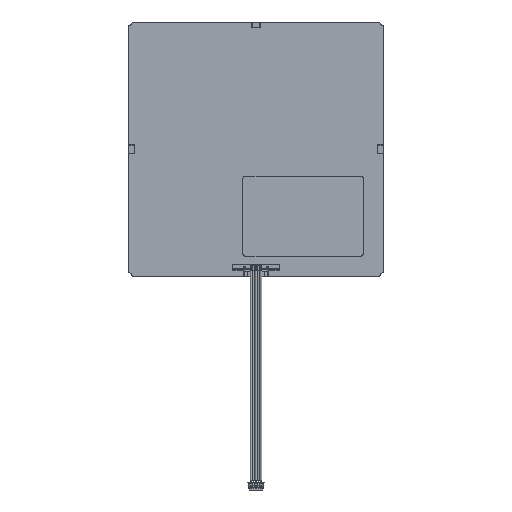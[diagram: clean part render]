
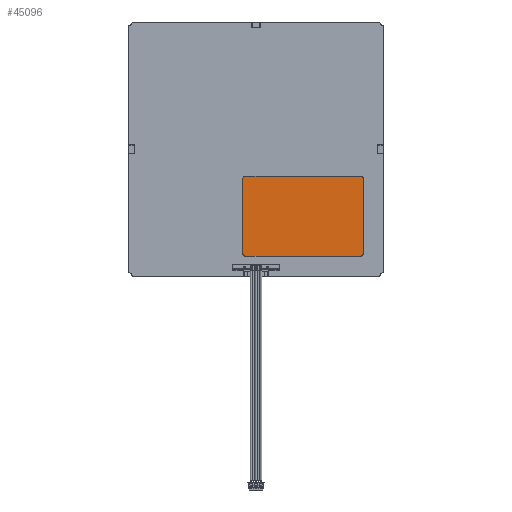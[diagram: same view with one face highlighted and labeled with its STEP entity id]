
A CAD part, front view. The second image highlights one B-rep face of the part: STEP entity #45096.
In plain terms, the highlighted planar face has unit normal (0, -1, 0).
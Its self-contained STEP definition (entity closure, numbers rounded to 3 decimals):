
#454 = EDGE_CURVE ( 'NONE', #48294, #49596, #20368, .T. ) ;
#651 = VERTEX_POINT ( 'NONE', #20707 ) ;
#753 = DIRECTION ( 'NONE',  ( 0., -1., 0. ) ) ;
#1751 = AXIS2_PLACEMENT_3D ( 'NONE', #33348, #9417, #37394 ) ;
#2313 = LINE ( 'NONE', #12406, #22228 ) ;
#3148 = DIRECTION ( 'NONE',  ( 0., 0., -1. ) ) ;
#4506 = CARTESIAN_POINT ( 'NONE',  ( 53.5, -1.693, -52.5 ) ) ;
#5899 = EDGE_CURVE ( 'NONE', #651, #14245, #25228, .T. ) ;
#8799 = EDGE_CURVE ( 'NONE', #14245, #34869, #46250, .T. ) ;
#9417 = DIRECTION ( 'NONE',  ( 0., -1., 0. ) ) ;
#10035 = CARTESIAN_POINT ( 'NONE',  ( 53.5, -1.693, -53.5 ) ) ;
#10796 = CIRCLE ( 'NONE', #43693, 1. ) ;
#10893 = VECTOR ( 'NONE', #3148, 1000. ) ;
#12129 = DIRECTION ( 'NONE',  ( 0., -1., 0. ) ) ;
#12406 = CARTESIAN_POINT ( 'NONE',  ( 53.5, -1.693, -53.5 ) ) ;
#12584 = ORIENTED_EDGE ( 'NONE', *, *, #16971, .T. ) ;
#13453 = VERTEX_POINT ( 'NONE', #41227 ) ;
#14245 = VERTEX_POINT ( 'NONE', #4506 ) ;
#14982 = DIRECTION ( 'NONE',  ( 0., -1., 0. ) ) ;
#16007 = VERTEX_POINT ( 'NONE', #20179 ) ;
#16395 = DIRECTION ( 'NONE',  ( 1., 0., 0. ) ) ;
#16552 = PLANE ( 'NONE',  #50326 ) ;
#16971 = EDGE_CURVE ( 'NONE', #16007, #13453, #20249, .T. ) ;
#18302 = EDGE_CURVE ( 'NONE', #34869, #48294, #10796, .T. ) ;
#18490 = ORIENTED_EDGE ( 'NONE', *, *, #5899, .T. ) ;
#18828 = ORIENTED_EDGE ( 'NONE', *, *, #8799, .T. ) ;
#19123 = VECTOR ( 'NONE', #44254, 1000. ) ;
#20179 = CARTESIAN_POINT ( 'NONE',  ( -6.5, -1.693, -14.5 ) ) ;
#20249 = LINE ( 'NONE', #27028, #10893 ) ;
#20368 = LINE ( 'NONE', #21882, #19123 ) ;
#20707 = CARTESIAN_POINT ( 'NONE',  ( 52.5, -1.693, -53.5 ) ) ;
#21008 = CARTESIAN_POINT ( 'NONE',  ( 52.5, -1.693, -52.5 ) ) ;
#21136 = CARTESIAN_POINT ( 'NONE',  ( 52.5, -1.693, -13.5 ) ) ;
#21578 = CARTESIAN_POINT ( 'NONE',  ( -5.5, -1.693, -13.5 ) ) ;
#21882 = CARTESIAN_POINT ( 'NONE',  ( 53.5, -1.693, -13.5 ) ) ;
#22228 = VECTOR ( 'NONE', #16395, 1000. ) ;
#23016 = EDGE_CURVE ( 'NONE', #48621, #651, #2313, .T. ) ;
#25032 = DIRECTION ( 'NONE',  ( 0., 0., 1. ) ) ;
#25228 = CIRCLE ( 'NONE', #48084, 1. ) ;
#26464 = ORIENTED_EDGE ( 'NONE', *, *, #39922, .T. ) ;
#27028 = CARTESIAN_POINT ( 'NONE',  ( -6.5, -1.693, -53.5 ) ) ;
#27139 = CARTESIAN_POINT ( 'NONE',  ( 53.5, -1.693, -14.5 ) ) ;
#27297 = FACE_OUTER_BOUND ( 'NONE', #41874, .T. ) ;
#28618 = DIRECTION ( 'NONE',  ( 0., 0., 1. ) ) ;
#30535 = ORIENTED_EDGE ( 'NONE', *, *, #23016, .T. ) ;
#30852 = ORIENTED_EDGE ( 'NONE', *, *, #37880, .T. ) ;
#33066 = CIRCLE ( 'NONE', #1751, 1. ) ;
#33348 = CARTESIAN_POINT ( 'NONE',  ( -5.5, -1.693, -52.5 ) ) ;
#34869 = VERTEX_POINT ( 'NONE', #27139 ) ;
#36095 = CARTESIAN_POINT ( 'NONE',  ( -5.5, -1.693, -14.5 ) ) ;
#37394 = DIRECTION ( 'NONE',  ( 0., 0., 1. ) ) ;
#37880 = EDGE_CURVE ( 'NONE', #49596, #16007, #38812, .T. ) ;
#38812 = CIRCLE ( 'NONE', #42494, 1. ) ;
#38957 = CARTESIAN_POINT ( 'NONE',  ( 52.5, -1.693, -14.5 ) ) ;
#39922 = EDGE_CURVE ( 'NONE', #13453, #48621, #33066, .T. ) ;
#40092 = DIRECTION ( 'NONE',  ( 0., 0., 1. ) ) ;
#41227 = CARTESIAN_POINT ( 'NONE',  ( -6.5, -1.693, -52.5 ) ) ;
#41874 = EDGE_LOOP ( 'NONE', ( #45484, #30852, #12584, #26464, #30535, #18490, #18828, #44876 ) ) ;
#42494 = AXIS2_PLACEMENT_3D ( 'NONE', #36095, #12129, #40092 ) ;
#42966 = DIRECTION ( 'NONE',  ( 0., 0., 1. ) ) ;
#43693 = AXIS2_PLACEMENT_3D ( 'NONE', #38957, #14982, #42966 ) ;
#44254 = DIRECTION ( 'NONE',  ( -1., 0., 0. ) ) ;
#44553 = CARTESIAN_POINT ( 'NONE',  ( 23.5, -1.693, -33.5 ) ) ;
#44876 = ORIENTED_EDGE ( 'NONE', *, *, #18302, .T. ) ;
#45011 = VECTOR ( 'NONE', #46030, 1000. ) ;
#45096 = ADVANCED_FACE ( 'NONE', ( #27297 ), #16552, .T. ) ;
#45484 = ORIENTED_EDGE ( 'NONE', *, *, #454, .T. ) ;
#46030 = DIRECTION ( 'NONE',  ( 0., 0., 1. ) ) ;
#46250 = LINE ( 'NONE', #10035, #45011 ) ;
#47315 = CARTESIAN_POINT ( 'NONE',  ( -5.5, -1.693, -53.5 ) ) ;
#48084 = AXIS2_PLACEMENT_3D ( 'NONE', #21008, #48947, #25032 ) ;
#48294 = VERTEX_POINT ( 'NONE', #21136 ) ;
#48621 = VERTEX_POINT ( 'NONE', #47315 ) ;
#48947 = DIRECTION ( 'NONE',  ( 0., -1., 0. ) ) ;
#49596 = VERTEX_POINT ( 'NONE', #21578 ) ;
#50326 = AXIS2_PLACEMENT_3D ( 'NONE', #44553, #753, #28618 ) ;
